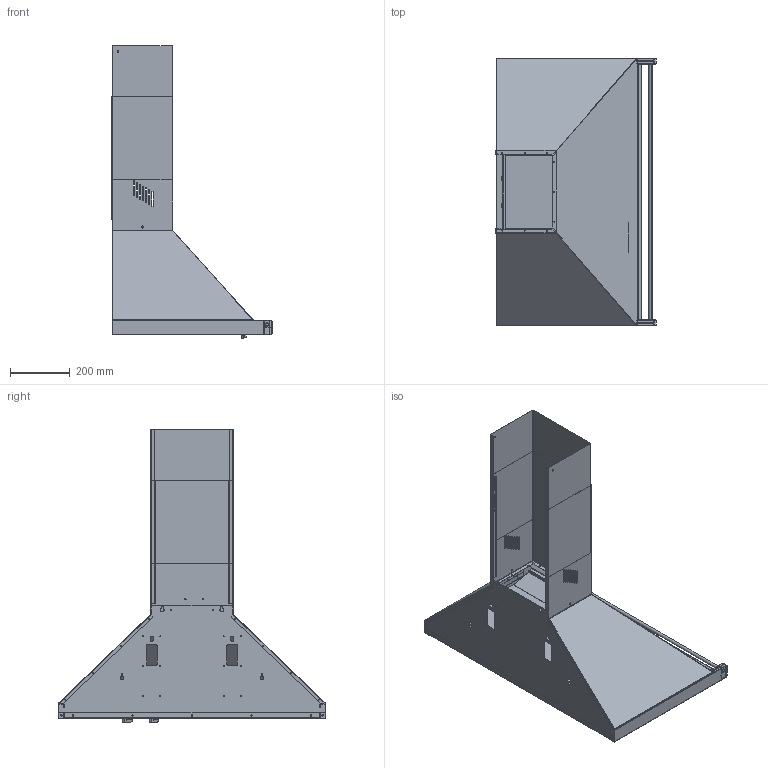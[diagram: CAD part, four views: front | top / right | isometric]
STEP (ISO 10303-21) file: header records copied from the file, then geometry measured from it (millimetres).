
FILE_DESCRIPTION(/* description */ (''),/* implementation_level */ '2;1');
FILE_NAME(/* name */ 'KD90HXE.stp',/* time_stamp */ '2017-03-08T14:13:29+01:00',/* author */ (''),/* organization */ (''),/* preprocessor_version */ 'ST-DEVELOPER v16',/* originating_system */ 'SIEMENS PLM Software NX 11.0',/* authorisation */ '');
FILE_SCHEMA (('AUTOMOTIVE_DESIGN { 1 0 10303 214 3 1 1 1 }'));
Products named in the file (1): FAVE1B34CD40hr5o
Bounding box: 539.62 x 900 x 984.21 mm (x, y, z)
Volume: 2652025.8 mm3; surface area: 4536779.4 mm2
Topology: 23 solids, 24 shells, 7497 faces, 18742 edges, 12240 vertices
Faces by surface type: plane 4532, cylinder 2871, bspline 46, torus 24, sphere 12, cone 12
Entity records: 227798 total; most frequent: CARTESIAN_POINT 42883, DIRECTION 39005, ORIENTED_EDGE 37424, EDGE_CURVE 18712, AXIS2_PLACEMENT_3D 13137, LINE 12731, VECTOR 12731, VERTEX_POINT 12240
